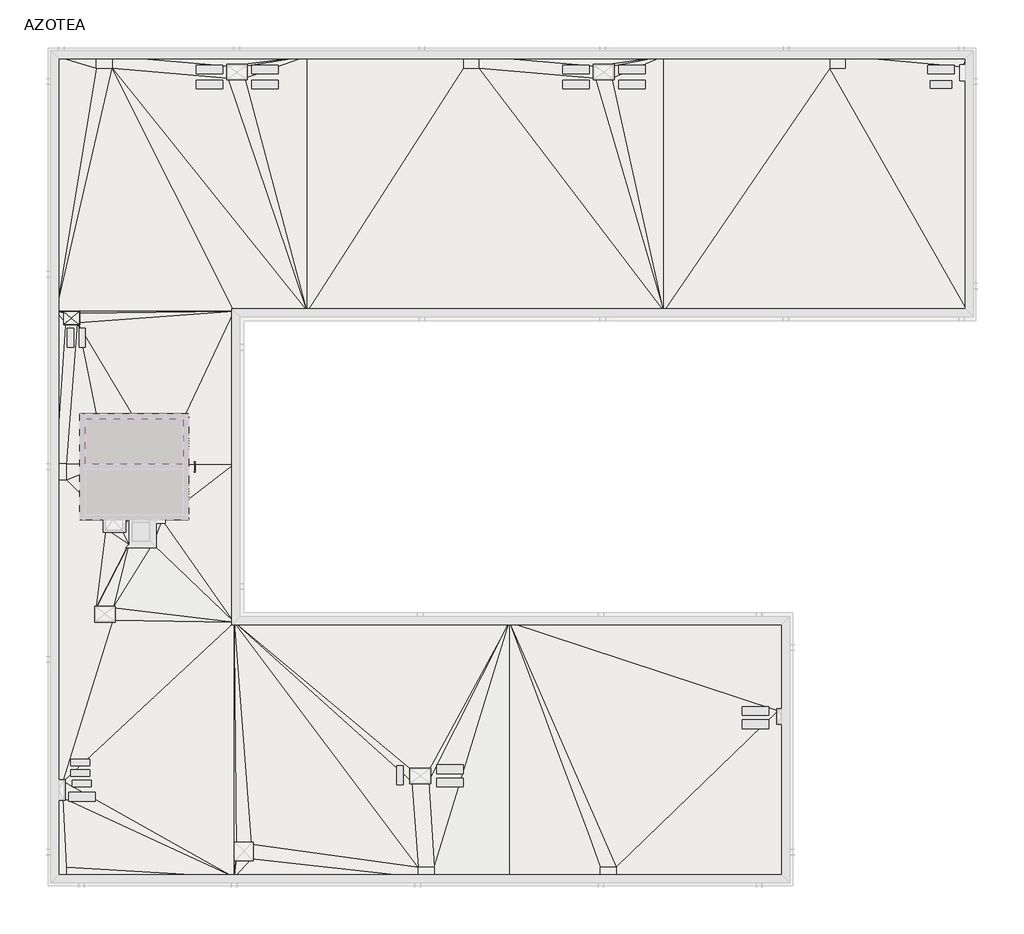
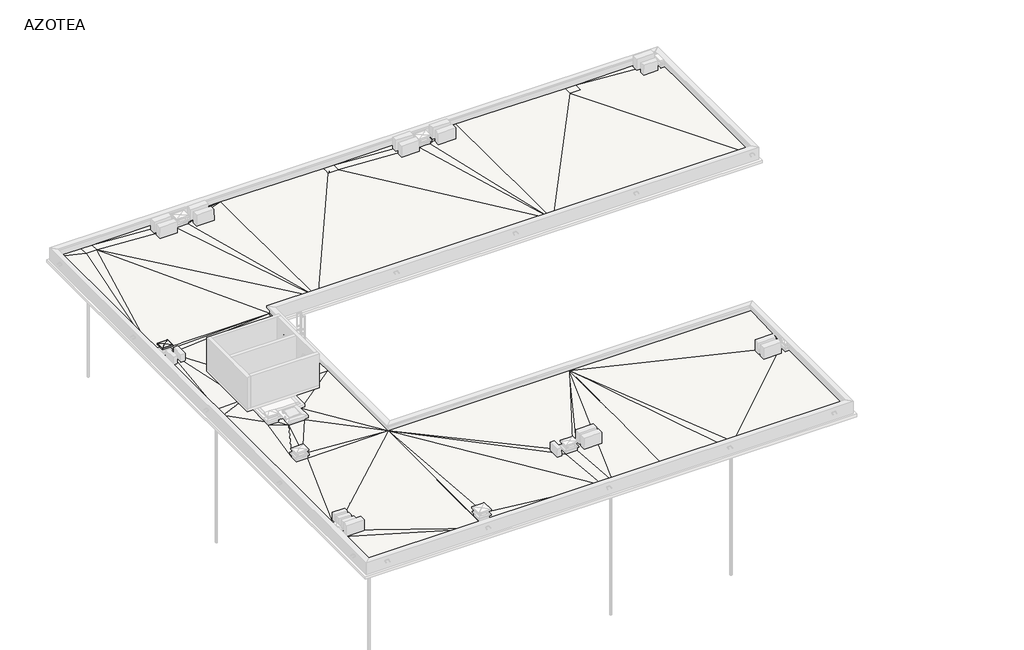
# One storey, part 3 of 6: 3 slabs, 1 proxy.
"""IFC4 building model written with IfcOpenShell, lengths in millimetres."""

from ifc_helpers import new_model, si_unit, frame, origin, place, context, project, spatial, faceted_brep, element, save
from ifc_brep_helpers import plane_surface, spline_surface, advanced_brep

model = new_model("IFC4")

# Units and contexts
model_context = context("Model", 3, world=origin())
ifc_project = project(units=[si_unit("LENGTHUNIT", "METRE", prefix="MILLI")], contexts=[model_context])

# Site, building, storey
site = spatial("IfcSite", under=ifc_project)
building = spatial("IfcBuilding", under=site)
storey = spatial("IfcBuildingStorey", under=building, Name="AZOTEA", Elevation=6570.0)

# Proxy
placement = place(None, origin())
element("IfcBuildingElementProxy", 1, Name="Goterón", ObjectType="Goterón", at=placement, inside=storey, context=model_context, shape_type="Brep", body=[
    faceted_brep([(4258.7173693, 21810.2304035, 7340.0), (4268.7173693, 21820.2304035, 7340.0), (3668.7173693, 21820.2304035, 7340.0), (3678.7173693, 21810.2304035, 7340.0), (3678.7173693, 21810.2304035, 7270.0), (3678.7173693, 21810.2304035, 7260.0), (4258.7173693, 21810.2304035, 7260.0), (4258.7173693, 21810.2304035, 7270.0), (4268.7173693, 21820.2304035, 7260.0), (3668.7173693, 21820.2304035, 7260.0), (3668.7173693, 21320.2304035, 7340.0), (3678.7173693, 21330.2304035, 7340.0), (3678.7173693, 21330.2304035, 7270.0), (3678.7173693, 21330.2304035, 7260.0), (3668.7173693, 21320.2304035, 7260.0), (4268.7173693, 21320.2304035, 7340.0), (4258.7173693, 21330.2304035, 7340.0), (4258.7173693, 21330.2304035, 7270.0), (4258.7173693, 21330.2304035, 7260.0), (4268.7173693, 21320.2304035, 7260.0)], [[[0, 1, 2, 3]], [[0, 3, 4, 5, 6, 7]], [[8, 6, 5, 9]], [[1, 8, 9, 2]], [[3, 2, 10, 11]], [[3, 11, 12, 13, 5, 4]], [[9, 5, 13, 14]], [[2, 9, 14, 10]], [[11, 10, 15, 16]], [[11, 16, 17, 18, 13, 12]], [[14, 13, 18, 19]], [[10, 14, 19, 15]], [[1, 0, 16, 15]], [[16, 0, 7, 6, 18, 17]], [[6, 8, 19, 18]], [[8, 1, 15, 19]]]),
])

# Slabs
element("IfcSlab", 2, ObjectType="CUBIERTA SALIDAS AZOTEA", at=placement, inside=storey, context=model_context, shape_type="Brep", body=[
    faceted_brep([(4258.7173693, 21810.2304035, 7270.0), (4258.7173693, 21330.2304035, 7270.0), (3678.7173693, 21330.2304035, 7270.0), (3678.7173693, 21810.2304035, 7270.0), (4258.7173693, 21810.2304035, 7340.0), (4258.7173693, 21330.2304035, 7340.0), (3678.7173693, 21330.2304035, 7340.0), (3678.7173693, 21810.2304035, 7340.0), (3960.8540496, 21563.0784627, 7351.1134235)], [[[0, 1, 2, 3]], [[1, 0, 4, 5]], [[2, 1, 5, 6]], [[3, 2, 6, 7]], [[0, 3, 7, 4]], [[7, 6, 8]], [[5, 4, 8]], [[6, 5, 8]], [[7, 8, 4]]]),
])
element("IfcSlab", 3, ObjectType="Alisado AyP con hidrófugo", at=placement, inside=storey, context=model_context, shape_type="Brep", body=[
    faceted_brep([(8174.4126343, 17770.2304035, 7910.0), (8174.4126343, 16070.2304035, 7910.0), (4474.4126343, 16070.2304035, 7910.0), (4474.4126343, 17770.2304035, 7910.0), (8174.4126343, 17770.2304035, 8060.0), (8174.4126343, 16070.2304035, 8060.0), (4474.4126343, 16070.2304035, 8060.0), (4474.4126343, 17770.2304035, 8060.0), (6324.4126343, 16920.2304035, 7960.0)], [[[0, 1, 2, 3]], [[1, 0, 4, 5]], [[2, 1, 5, 6]], [[3, 2, 6, 7]], [[0, 3, 7, 4]], [[7, 6, 8]], [[5, 4, 8]], [[6, 5, 8]], [[7, 8, 4]]]),
])
element("IfcSlab", 4, ObjectType="C13 CUBIERTA VERDE", at=placement, inside=storey, context=model_context, shape_type="AdvancedBrep", body=[
    advanced_brep(
    [(3388.7173693, 31420.2304035, 6570.0), (37688.7173693, 31420.2304035, 6570.0), (37688.7173693, 31020.2304035, 6570.0), (37471.0173693, 31020.2304035, 6570.0), (37471.0173693, 30580.2304035, 6570.0), (37688.7173693, 30580.2304035, 6570.0), (37688.7173693, 21820.2304035, 6570.0), (10088.7173693, 21820.2304035, 6570.0), (10088.7173693, 10120.2304035, 6570.0), (30788.7173693, 10120.2304035, 6570.0), (30788.7173693, 6790.2304035, 6570.0), (30566.2173693, 6790.2304035, 6570.0), (30566.2173693, 6350.2304035, 6570.0), (30788.7173693, 6350.2304035, 6570.0), (30788.7173693, 5880.5756615, 6570.0), (30788.7173693, 520.2304035, 6570.0), (3388.7173693, 520.2304035, 6570.0), (3388.7173693, 3491.2570664, 6570.0), (3658.7173693, 3491.2570664, 6570.0), (3658.7173693, 4131.2570664, 6570.0), (3388.7173693, 4131.2570664, 6570.0), (5268.7173694, 16070.2304035, 6570.0), (5268.7173694, 13970.2304035, 6570.0), (5268.7173694, 13620.2304035, 6570.0), (5838.7173694, 13620.2304035, 6570.0), (5838.7173694, 13970.2304035, 6570.0), (6124.4126343, 13970.2304035, 6570.0), (6124.4126343, 13050.2304035, 6570.0), (7024.4126343, 13050.2304035, 6570.0), (7024.4126343, 13970.2304035, 6570.0), (7368.7173693, 13970.2304035, 6570.0), (7368.7173693, 16070.2304035, 6570.0), (10508.7173694, 31040.2304035, 6570.0), (9868.7173694, 31040.2304035, 6570.0), (9868.7173694, 30600.2304035, 6570.0), (10508.7173694, 30600.2304035, 6570.0), (24308.7173694, 31040.2304035, 6570.0), (23668.7173693, 31040.2304035, 6570.0), (23668.7173693, 30600.2304035, 6570.0), (24308.7173694, 30600.2304035, 6570.0), (10168.7173694, 1765.2304035, 6570.0), (10168.7173694, 1225.2304035, 6570.0), (10721.2173694, 1225.2304035, 6570.0), (10721.2173694, 1765.2304035, 6570.0), (16768.7173694, 4560.2304035, 6570.0), (16768.7173694, 4120.2304035, 6570.0), (17408.7173694, 4120.2304035, 6570.0), (17408.7173694, 4560.2304035, 6570.0), (4898.7212045, 10200.2304035, 6570.0), (5538.7212045, 10200.2304035, 6570.0), (5538.7212045, 10660.2304035, 6570.0), (4898.7212045, 10660.2304035, 6570.0), (4188.7173693, 21740.2304035, 6570.0), (3748.7173693, 21740.2304035, 6570.0), (3748.7173693, 21400.2304035, 6570.0), (4188.7173693, 21400.2304035, 6570.0), (3388.7173693, 31420.2304035, 6820.0), (4891.454197, 31420.2304035, 6790.0), (5491.454197, 31420.2304035, 6790.0), (12834.0232184, 31420.2304035, 6840.0), (18695.2178789, 31420.2304035, 6790.0), (19295.2178789, 31420.2304035, 6790.0), (26253.1413276, 31420.2304035, 6840.0), (32486.4546493, 31420.2304035, 6790.0), (33086.4546493, 31420.2304035, 6790.0), (37688.7173693, 31420.2304035, 6840.0), (37688.7173693, 31020.2304035, 6790.0), (37688.7173693, 21820.2304035, 6790.0), (26253.1413276, 21820.2304035, 6910.0), (12834.0232184, 21820.2304035, 6910.0), (10088.7173693, 21820.2304035, 6910.0), (10088.7173693, 16070.2432952, 6910.0), (10088.7173693, 10120.2304035, 6910.0), (20438.7173693, 10120.2304035, 6910.0), (30788.7173693, 10120.2304035, 6910.0), (30788.7173693, 6790.2304035, 6790.0), (30788.7173693, 520.2304035, 6790.0), (24468.7173693, 520.2304035, 6790.0), (23868.7173693, 520.2304035, 6790.0), (20438.7173693, 520.2304035, 6840.0), (17608.7173693, 520.2304035, 6790.0), (17008.7173693, 520.2304035, 6790.0), (10088.7173693, 520.2304035, 6840.0), (3778.7173693, 520.2304035, 6790.0), (3388.7173693, 520.2304035, 6790.0), (3388.7173693, 4131.2570664, 6790.0), (3388.7173693, 15478.0786724, 6790.0), (3388.7173693, 16078.0786724, 6790.0), (3388.7173693, 21820.2304035, 6850.0), (30566.2173693, 6790.2304035, 6790.0), (5491.454197, 30970.2304035, 6790.0), (7368.7173693, 13970.2304035, 6870.0), (5268.7173694, 16070.2304035, 6850.0), (5268.7173694, 13970.2304035, 6790.0), (5838.7173694, 13970.2304035, 6790.0), (6124.4126343, 13970.2304035, 6870.0), (6124.4126343, 13050.2304035, 6840.0), (7024.4126343, 13050.2304035, 6850.0), (7024.4126343, 13970.2304035, 6910.0), (7368.7173693, 16070.2304035, 6910.0), (5538.7212045, 10660.2304035, 6790.0), (5838.7173694, 13620.2304035, 6790.0), (24468.7173693, 910.2304035, 6790.0), (23868.7173693, 910.2304035, 6790.0), (17608.7173693, 910.2304035, 6790.0), (17008.7173693, 910.2304035, 6790.0), (16768.7173694, 4120.2304035, 6790.0), (37471.0173693, 31020.2304035, 6790.0), (32486.4546493, 30970.2304035, 6790.0), (33086.4546493, 30970.2304035, 6790.0), (18695.2178789, 30970.2304035, 6790.0), (19295.2178789, 30970.2304035, 6790.0), (3788.7173693, 16078.0786724, 6790.0), (3788.7173693, 15478.0786724, 6790.0), (24308.7173694, 30600.2304035, 6830.0), (10508.7173694, 30600.2304035, 6830.0), (4891.454197, 30970.2304035, 6790.0), (3778.7173693, 910.2304035, 6790.0), (10168.7173694, 1765.2304035, 6790.0), (10508.7173694, 31040.2304035, 6830.0), (9868.7173694, 31040.2304035, 6820.0), (9868.7173694, 30600.2304035, 6820.0), (24308.7173694, 31040.2304035, 6830.0), (23668.7173693, 31040.2304035, 6820.0), (23668.7173693, 30600.2304035, 6820.0), (4188.7173693, 21740.2304035, 6790.0), (10168.7173694, 1225.2304035, 6790.0), (10721.2173694, 1225.2304035, 6790.0), (10721.2173694, 1765.2304035, 6790.0), (5268.7173694, 13620.2304035, 6790.0), (4898.7212045, 10660.2304035, 6790.0), (30788.7173693, 5880.5756615, 6790.0), (16768.7173694, 4560.2304035, 6790.0), (17408.7173694, 4120.2304035, 6790.0), (17408.7173694, 4560.2304035, 6790.0), (4898.7212045, 10200.2304035, 6790.0), (5538.7212045, 10200.2304035, 6790.0), (3748.7173693, 21740.2304035, 6790.0), (3748.7173693, 21400.2304035, 6790.0), (4188.7173693, 21400.2304035, 6790.0), (3658.7173693, 4131.2570664, 6790.0), (3658.7173693, 3491.2570664, 6790.0), (30788.7173693, 6350.2304035, 6790.0), (30566.2173693, 6350.2304035, 6790.0), (37471.0173693, 30580.2304035, 6790.0), (37688.7173693, 30580.2304035, 6790.0), (3388.7173693, 3491.2570664, 6790.0)],
    [
        (0, 1),
        (1, 2),
        (2, 3),
        (3, 4),
        (4, 5),
        (5, 6),
        (6, 7),
        (7, 8),
        (8, 9),
        (9, 10),
        (10, 11),
        (11, 12),
        (12, 13),
        (13, 14),
        (14, 15),
        (15, 16),
        (16, 17),
        (17, 18),
        (18, 19),
        (19, 20),
        (20, 0),
        (21, 22),
        (22, 23),
        (23, 24),
        (24, 25),
        (25, 26),
        (26, 27),
        (27, 28),
        (28, 29),
        (29, 30),
        (30, 31),
        (31, 21),
        (32, 33),
        (33, 34),
        (34, 35),
        (35, 32),
        (36, 37),
        (37, 38),
        (38, 39),
        (39, 36),
        (40, 41),
        (41, 42),
        (42, 43),
        (43, 40),
        (44, 45),
        (45, 46),
        (46, 47),
        (47, 44),
        (48, 49),
        (49, 50),
        (50, 51),
        (51, 48),
        (52, 53),
        (53, 54),
        (54, 55),
        (55, 52),
        (0, 56),
        (56, 57),
        (57, 58),
        (58, 59),
        (59, 60),
        (60, 61),
        (61, 62),
        (62, 63),
        (63, 64),
        (64, 65),
        (65, 1),
        (65, 66),
        (66, 2),
        (6, 67),
        (67, 68),
        (68, 69),
        (69, 70),
        (70, 7),
        (70, 71),
        (71, 72),
        (72, 8),
        (72, 73),
        (73, 74),
        (74, 9),
        (74, 75),
        (75, 10),
        (15, 76),
        (76, 77),
        (77, 78),
        (78, 79),
        (79, 80),
        (80, 81),
        (81, 82),
        (82, 83),
        (83, 84),
        (84, 16),
        (20, 85),
        (85, 86),
        (86, 87),
        (87, 88),
        (88, 56),
        (73, 89),
        (89, 75),
        (69, 90),
        (90, 70),
        (71, 91),
        (91, 72),
        (21, 92),
        (92, 93),
        (93, 22),
        (25, 94),
        (94, 95),
        (95, 26),
        (95, 96),
        (96, 27),
        (96, 97),
        (97, 28),
        (97, 98),
        (98, 29),
        (98, 91),
        (91, 30),
        (91, 99),
        (99, 31),
        (99, 92),
        (72, 97),
        (97, 100),
        (100, 72),
        (97, 91),
        (95, 101),
        (101, 96),
        (70, 99),
        (99, 71),
        (77, 102),
        (102, 103),
        (103, 78),
        (80, 104),
        (104, 105),
        (105, 81),
        (73, 104),
        (79, 73),
        (72, 105),
        (105, 106),
        (106, 72),
        (64, 107),
        (107, 65),
        (68, 108),
        (108, 63),
        (62, 68),
        (109, 64),
        (108, 109),
        (69, 110),
        (110, 60),
        (59, 69),
        (111, 61),
        (110, 111),
        (90, 88),
        (88, 70),
        (68, 111),
        (92, 112),
        (112, 113),
        (113, 92),
        (112, 87),
        (86, 113),
        (62, 114),
        (114, 68),
        (59, 115),
        (115, 69),
        (90, 58),
        (57, 116),
        (116, 90),
        (56, 116),
        (82, 117),
        (117, 83),
        (72, 82),
        (82, 118),
        (118, 72),
        (103, 73),
        (32, 119),
        (119, 120),
        (120, 33),
        (120, 121),
        (121, 34),
        (121, 115),
        (115, 35),
        (115, 119),
        (36, 122),
        (122, 123),
        (123, 37),
        (123, 124),
        (124, 38),
        (124, 114),
        (114, 39),
        (114, 122),
        (90, 121),
        (120, 58),
        (121, 69),
        (120, 59),
        (59, 119),
        (68, 124),
        (124, 111),
        (123, 61),
        (123, 62),
        (62, 122),
        (88, 116),
        (88, 125),
        (125, 70),
        (40, 118),
        (118, 126),
        (126, 41),
        (126, 127),
        (127, 42),
        (127, 128),
        (128, 43),
        (128, 118),
        (82, 126),
        (128, 72),
        (82, 127),
        (105, 128),
        (127, 81),
        (93, 129),
        (129, 23),
        (129, 101),
        (101, 24),
        (101, 94),
        (96, 129),
        (129, 130),
        (130, 96),
        (113, 93),
        (14, 131),
        (131, 76),
        (44, 132),
        (132, 106),
        (106, 45),
        (106, 133),
        (133, 46),
        (133, 134),
        (134, 47),
        (134, 132),
        (48, 135),
        (135, 136),
        (136, 49),
        (136, 100),
        (100, 50),
        (100, 130),
        (130, 51),
        (130, 135),
        (52, 125),
        (125, 137),
        (137, 53),
        (137, 138),
        (138, 54),
        (138, 139),
        (139, 55),
        (139, 125),
        (72, 136),
        (136, 140),
        (140, 72),
        (100, 96),
        (82, 141),
        (141, 117),
        (92, 139),
        (139, 112),
        (138, 87),
        (88, 138),
        (137, 88),
        (139, 70),
        (139, 99),
        (104, 133),
        (132, 72),
        (73, 133),
        (134, 73),
        (131, 142),
        (142, 143),
        (143, 89),
        (89, 102),
        (102, 73),
        (66, 107),
        (107, 3),
        (107, 144),
        (144, 4),
        (144, 145),
        (145, 5),
        (145, 67),
        (108, 67),
        (84, 146),
        (146, 17),
        (141, 146),
        (85, 140),
        (141, 18),
        (141, 140),
        (140, 19),
        (140, 82),
        (13, 142),
        (89, 11),
        (143, 12),
    ],
    [
        plane_surface(frame((37488.7173693, 31420.2304035, 6570.0), z_axis=(0.0, 0.0, -1.0), x_axis=(1.0, 0.0, 0.0))),
        plane_surface(frame((3388.7173693, 31420.2304035, 6570.0), z_axis=(0.0, 1.0, 0.0), x_axis=(0.0, 0.0, 1.0))),
        plane_surface(frame((37688.7173693, 31420.2304035, 6570.0), z_axis=(1.0, 0.0, 0.0), x_axis=(0.0, 0.0, 1.0))),
        plane_surface(frame((37688.7173693, 21820.2304035, 6570.0), z_axis=(0.0, -1.0, 0.0), x_axis=(0.0, 0.0, 1.0))),
        plane_surface(frame((10088.7173693, 21820.2304035, 6570.0), z_axis=(1.0, 0.0, 0.0), x_axis=(0.0, 0.0, 1.0))),
        plane_surface(frame((10088.7173693, 10120.2304035, 6570.0), z_axis=(0.0, 1.0, 0.0), x_axis=(0.0, 0.0, 1.0))),
        plane_surface(frame((30788.7173693, 10120.2304035, 6570.0), z_axis=(1.0, 0.0, 0.0), x_axis=(0.0, 0.0, 1.0))),
        plane_surface(frame((30788.7173693, 520.2304035, 6570.0), z_axis=(0.0, -1.0, 0.0), x_axis=(0.0, 0.0, 1.0))),
        plane_surface(frame((3388.7173693, 4131.2570664, 6570.0), z_axis=(-1.0, 0.0, 0.0), x_axis=(0.0, 0.0, 1.0))),
        plane_surface(frame((28145.5923693, 8455.2304035, 6850.0), z_axis=(0.0, -0.03601266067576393, 0.9993513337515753), x_axis=(-1.0, 0.0, 0.0))),
        plane_surface(frame((9471.3982616, 24870.2304035, 6870.0), z_axis=(0.0, 0.013113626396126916, 0.9999140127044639), x_axis=(1.0, 0.0, 0.0))),
        plane_surface(frame((9182.0507027, 13386.9013674, 6896.6666667), z_axis=(-0.01470429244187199, 0.0, 0.9998918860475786), x_axis=(0.0, 1.0, 0.0))),
        plane_surface(frame((5268.7173694, 16070.2304035, 6570.0), z_axis=(1.0, 0.0, 0.0), x_axis=(0.0, 0.0, 1.0))),
        plane_surface(frame((5838.7173694, 13970.2304035, 6570.0), z_axis=(0.0, 1.0, 0.0), x_axis=(0.0, 0.0, 1.0))),
        plane_surface(frame((6124.4126343, 13970.2304035, 6570.0), z_axis=(1.0, 0.0, 0.0), x_axis=(0.0, 0.0, 1.0))),
        plane_surface(frame((6124.4126343, 13050.2304035, 6570.0), z_axis=(0.0, 1.0, 0.0), x_axis=(0.0, 0.0, 1.0))),
        plane_surface(frame((7024.4126343, 13050.2304035, 6570.0), z_axis=(-1.0, 0.0, 0.0), x_axis=(0.0, 0.0, 1.0))),
        plane_surface(frame((7024.4126343, 13970.2304035, 6570.0), z_axis=(0.0, 1.0, 0.0), x_axis=(0.0, 0.0, 1.0))),
        plane_surface(frame((7368.7173693, 13970.2304035, 6570.0), z_axis=(-1.0, 0.0, 0.0), x_axis=(0.0, 0.0, 1.0))),
        plane_surface(frame((7368.7173693, 16070.2304035, 6570.0), z_axis=(0.0, -1.0, 0.0), x_axis=(0.0, 0.0, 1.0))),
        plane_surface(frame((7550.6170694, 11276.8970701, 6850.0), z_axis=(-0.027325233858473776, -0.008108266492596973, 0.9995937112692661), x_axis=(-0.7226960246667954, 0.6910211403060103, -0.014150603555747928))),
        plane_surface(frame((7139.1808793, 13663.5637368, 6876.6666667), z_axis=(0.11515860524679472, -0.06464617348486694, 0.99124132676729), x_axis=(-0.9933191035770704, 0.0, 0.1153999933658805))),
        plane_surface(frame((8160.615791, 12380.2304035, 6876.6666667), z_axis=(-0.029713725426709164, -0.010608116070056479, 0.9995021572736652), x_axis=(-0.5769955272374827, 0.8167032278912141, -0.008485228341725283))),
        plane_surface(frame((6029.1808793, 13546.8970701, 6833.3333333), z_axis=(-0.23332035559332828, -0.031691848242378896, 0.9718833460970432), x_axis=(0.0, 0.9994687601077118, 0.03259137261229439))),
        plane_surface(frame((9182.0507027, 17986.9013674, 6910.0), z_axis=(0.0, 0.0, 1.0000000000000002), x_axis=(-0.42761323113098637, -0.9039617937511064, 0.0))),
        plane_surface(frame((8275.384036, 15370.2347007, 6896.6666667), z_axis=(9.026153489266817e-08, -0.01904416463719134, 0.9998186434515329), x_axis=(-0.9999999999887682, -4.739590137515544e-06, 0.0))),
        plane_surface(frame((24168.7173693, 715.2304035, 6790.0), z_axis=(0.0, 0.0, 1.0), x_axis=(0.0, 1.0, 0.0))),
        plane_surface(frame((17308.7173693, 715.2304035, 6790.0), z_axis=(0.0, 0.0, 1.0), x_axis=(0.0, 1.0, 0.0))),
        spline_surface(1, 1, [[(17608.7173693, 910.2304035, 6790.0), (20438.7173693, 10120.2304035, 6910.0)], [(17608.7173693, 520.2304035, 6790.0), (20438.7173693, 520.2304035, 6840.0)]], [2, 2], [2, 2], [0.0, 1.0], [0.0, 1.0]),
        plane_surface(frame((14622.0507027, 5050.2304035, 6830.0), z_axis=(0.01925371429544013, 0.0014395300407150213, 0.9998135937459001), x_axis=(0.6006616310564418, -0.7994354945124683, -0.010416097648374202))),
        plane_surface(frame((36082.0631293, 31286.8970701, 6806.6666667), z_axis=(-0.010787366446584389, -0.11824471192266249, 0.9929258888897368), x_axis=(-0.9999409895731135, 0.0, -0.010863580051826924))),
        spline_surface(1, 1, [[(32486.4546493, 30970.2304035, 6790.0), (26253.1413276, 21820.2304035, 6910.0)], [(32486.4546493, 31420.2304035, 6790.0), (26253.1413276, 31420.2304035, 6840.0)]], [2, 2], [2, 2], [0.0, 1.0], [0.0, 1.0]),
        plane_surface(frame((32786.4546493, 31195.2304035, 6790.0), z_axis=(0.0, 0.0, 1.0), x_axis=(0.0, 1.0, 0.0))),
        spline_surface(1, 1, [[(18695.2178789, 30970.2304035, 6790.0), (12834.0232184, 21820.2304035, 6910.0)], [(18695.2178789, 31420.2304035, 6790.0), (12834.0232184, 31420.2304035, 6840.0)]], [2, 2], [2, 2], [0.0, 1.0], [0.0, 1.0]),
        plane_surface(frame((18995.2178789, 31195.2304035, 6790.0), z_axis=(0.0, 0.0, 1.0), x_axis=(0.0, 1.0, 0.0))),
        plane_surface(frame((6322.9629786, 24870.2304035, 6850.0), z_axis=(-0.008954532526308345, 0.008614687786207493, 0.999922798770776), x_axis=(-0.44892123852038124, 0.8934944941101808, -0.011717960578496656))),
        plane_surface(frame((19269.4000759, 26395.2304035, 6850.0), z_axis=(0.0, 0.01311362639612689, 0.9999140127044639), x_axis=(-0.6052666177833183, 0.795954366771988, -0.010438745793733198))),
        plane_surface(frame((4282.0507027, 15875.4625828, 6810.0), z_axis=(-0.04050726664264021, 0.0, 0.9991792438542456), x_axis=(-0.999165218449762, 0.005298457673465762, -0.04050669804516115))),
        plane_surface(frame((3588.7173693, 15778.0786724, 6790.0), z_axis=(0.0, 0.0, 1.0), x_axis=(-1.0, 0.0, 0.0))),
        plane_surface(frame((25605.0000082, 27946.8970701, 6860.0), z_axis=(-0.008217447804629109, 0.0072912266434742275, 0.9999396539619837), x_axis=(0.0, 0.9999734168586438, -0.0072914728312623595))),
        plane_surface(frame((12058.9212687, 27946.8970701, 6860.0), z_axis=(-0.0068715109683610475, 0.007291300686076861, 0.999949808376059), x_axis=(0.0, 0.9999734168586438, -0.0072914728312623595))),
        plane_surface(frame((5191.454197, 31195.2304035, 6790.0), z_axis=(0.0, 0.0, 1.0), x_axis=(0.0, 1.0, 0.0))),
        plane_surface(frame((4390.5419211, 31270.2304035, 6800.0), z_axis=(0.019959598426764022, 0.0, 0.9998007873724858), x_axis=(0.9577950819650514, -0.2868152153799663, -0.019121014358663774))),
        plane_surface(frame((5882.0507027, 650.2304035, 6806.6666667), z_axis=(-0.007923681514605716, 0.0, 0.999968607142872), x_axis=(0.999968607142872, 0.0, 0.007923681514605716))),
        plane_surface(frame((10115.384036, 4135.2304035, 6846.6666667), z_axis=(0.5940406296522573, -0.005865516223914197, 0.8044136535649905), x_axis=(0.0, -0.9999734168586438, -0.007291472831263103))),
        spline_surface(1, 1, [[(20438.7173693, 520.2304035, 6840.0), (20438.7173693, 10120.2304035, 6910.0)], [(23868.7173693, 520.2304035, 6790.0), (23868.7173693, 910.2304035, 6790.0)]], [2, 2], [2, 2], [0.0, 1.0], [0.0, 1.0]),
        plane_surface(frame((10508.7173694, 31040.2304035, 6570.0), z_axis=(0.0, -1.0, 0.0), x_axis=(0.0, 0.0, 1.0))),
        plane_surface(frame((9868.7173694, 31040.2304035, 6570.0), z_axis=(1.0, 0.0, 0.0), x_axis=(0.0, 0.0, 1.0))),
        plane_surface(frame((9868.7173694, 30600.2304035, 6570.0), z_axis=(0.0, 1.0, 0.0), x_axis=(0.0, 0.0, 1.0))),
        plane_surface(frame((10508.7173694, 30600.2304035, 6570.0), z_axis=(-1.0, 0.0, 0.0), x_axis=(0.0, 0.0, 1.0))),
        plane_surface(frame((24308.7173694, 31040.2304035, 6570.0), z_axis=(0.0, -1.0, 0.0), x_axis=(0.0, 0.0, 1.0))),
        plane_surface(frame((23668.7173693, 31040.2304035, 6570.0), z_axis=(1.0, 0.0, 0.0), x_axis=(0.0, 0.0, 1.0))),
        plane_surface(frame((23668.7173693, 30600.2304035, 6570.0), z_axis=(0.0, 1.0, 0.0), x_axis=(0.0, 0.0, 1.0))),
        plane_surface(frame((24308.7173694, 30600.2304035, 6570.0), z_axis=(-1.0, 0.0, 0.0), x_axis=(0.0, 0.0, 1.0))),
        plane_surface(frame((7680.0857832, 31007.7304035, 6805.0), z_axis=(-0.006853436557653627, 0.0, 0.9999765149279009), x_axis=(0.9964233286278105, -0.08422537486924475, 0.006829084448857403))),
        plane_surface(frame((11070.4859857, 27673.5637368, 6853.3333333), z_axis=(-0.01562289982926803, 0.004972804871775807, 0.9998655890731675), x_axis=(-0.2560048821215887, 0.9666353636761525, -0.008807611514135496))),
        plane_surface(frame((9398.0649282, 27796.8970701, 6840.0), z_axis=(-0.00616276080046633, 0.008168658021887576, 0.9999476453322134), x_axis=(-0.3199627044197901, 0.9473803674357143, -0.009711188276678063))),
        plane_surface(frame((9398.0649282, 31293.5637368, 6816.6666667), z_axis=(-0.0068094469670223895, 0.0005067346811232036, 0.9999766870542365), x_axis=(0.9962297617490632, -0.08648493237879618, 0.0068277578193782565))),
        plane_surface(frame((11283.819319, 31020.2304035, 6833.3333333), z_axis=(-0.004300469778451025, 0.0, 0.9999907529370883), x_axis=(-0.9868998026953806, -0.161278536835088, -0.00424417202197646))),
        plane_surface(frame((11070.4859857, 31166.8970701, 6830.0), z_axis=(-0.015585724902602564, 0.06912292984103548, 0.9974863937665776), x_axis=(-0.9918665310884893, -0.12710637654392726, -0.006689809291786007))),
        plane_surface(frame((23072.3588586, 27796.8970701, 6840.0), z_axis=(-0.006144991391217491, 0.008441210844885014, 0.9999454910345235), x_axis=(-0.2823609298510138, 0.9592578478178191, -0.009832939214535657))),
        plane_surface(frame((21481.9676241, 31007.7304035, 6805.0), z_axis=(-0.006859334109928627, 0.0, 0.9999764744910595), x_axis=(0.9964172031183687, -0.0842973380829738, 0.006834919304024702))),
        plane_surface(frame((23072.3588586, 31293.5637368, 6816.6666667), z_axis=(-0.007185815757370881, -0.0037582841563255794, 0.9999671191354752), x_axis=(0.9962233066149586, -0.08655879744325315, 0.006833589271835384))),
        plane_surface(frame((24956.8586888, 31020.2304035, 6833.3333333), z_axis=(-0.00514284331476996, 0.0, 0.9999867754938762), x_axis=(-0.9814211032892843, -0.191799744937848, -0.0050473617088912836))),
        plane_surface(frame((24743.5253555, 31166.8970701, 6830.0), z_axis=(-0.015600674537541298, 0.053552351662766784, 0.998443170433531), x_axis=(-0.9893335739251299, -0.14546636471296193, -0.007656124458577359))),
        plane_surface(frame((24743.5253555, 27673.5637368, 6853.3333333), z_axis=(-0.015622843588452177, 0.005650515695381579, 0.9998619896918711), x_axis=(-0.21621322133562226, 0.9763056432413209, -0.008895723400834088))),
        plane_surface(frame((3889.6296452, 28070.2304035, 6820.0), z_axis=(0.02089470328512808, 0.0031243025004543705, 0.9997768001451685), x_axis=(0.0, -0.9999951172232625, 0.0031249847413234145))),
        plane_surface(frame((4590.5419211, 27920.2304035, 6810.0), z_axis=(0.0, 0.006557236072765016, 0.9999785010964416), x_axis=(-1.0, 0.0, 0.0))),
        plane_surface(frame((5888.7173693, 21793.5637368, 6850.0), z_axis=(-0.0068584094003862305, -0.6429758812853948, 0.7658557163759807), x_axis=(-0.9999599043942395, 0.0, -0.008954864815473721))),
        plane_surface(frame((10168.7173694, 1765.2304035, 6570.0), z_axis=(1.0, 0.0, 0.0), x_axis=(0.0, 0.0, 1.0))),
        plane_surface(frame((10168.7173694, 1225.2304035, 6570.0), z_axis=(0.0, 1.0, 0.0), x_axis=(0.0, 0.0, 1.0))),
        plane_surface(frame((10721.2173694, 1225.2304035, 6570.0), z_axis=(-1.0, 0.0, 0.0), x_axis=(0.0, 0.0, 1.0))),
        plane_surface(frame((10721.2173694, 1765.2304035, 6570.0), z_axis=(0.0, -1.0, 0.0), x_axis=(0.0, 0.0, 1.0))),
        plane_surface(frame((10142.0507027, 1170.2304035, 6806.6666667), z_axis=(0.5299989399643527, 0.0, 0.8479983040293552), x_axis=(0.11247264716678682, 0.9911652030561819, -0.07029540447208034))),
        plane_surface(frame((10326.2173693, 4550.2304035, 6830.0), z_axis=(0.0, -0.0143611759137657, 0.9998968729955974), x_axis=(0.009573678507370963, -0.9998510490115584, -0.01436051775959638))),
        plane_surface(frame((10326.2173693, 990.2304035, 6806.6666667), z_axis=(0.0, 0.07074428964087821, 0.997494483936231), x_axis=(0.6668686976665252, 0.7433081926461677, -0.05271689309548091))),
        plane_surface(frame((13864.9673693, 1105.2304035, 6790.0), z_axis=(0.0, 0.0, 1.0000000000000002), x_axis=(-0.990880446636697, 0.13474398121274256, 0.0))),
        plane_surface(frame((12606.2173693, 755.2304035, 6806.6666667), z_axis=(0.0072102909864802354, 0.06430454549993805, 0.9979042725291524), x_axis=(-0.9937724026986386, 0.11142895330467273, 0.0))),
        plane_surface(frame((12606.2173693, 4265.2304035, 6830.0), z_axis=(-0.0019731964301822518, -0.014510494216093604, 0.9998927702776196), x_axis=(0.07547943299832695, -0.9970445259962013, -0.014320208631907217))),
        plane_surface(frame((5268.7173694, 13970.2304035, 6570.0), z_axis=(1.0, 0.0, 0.0), x_axis=(0.0, 0.0, 1.0))),
        plane_surface(frame((5268.7173694, 13620.2304035, 6570.0), z_axis=(0.0, 1.0, 0.0), x_axis=(0.0, 0.0, 1.0))),
        plane_surface(frame((5838.7173694, 13620.2304035, 6570.0), z_axis=(-1.0, 0.0, 0.0), x_axis=(0.0, 0.0, 1.0))),
        plane_surface(frame((5430.6170694, 12443.5637368, 6806.6666667), z_axis=(-0.05386113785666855, 0.006732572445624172, 0.9985257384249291), x_axis=(-0.8312759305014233, 0.5537336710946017, -0.048573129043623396))),
        plane_surface(frame((5933.9491243, 13853.5637368, 6816.6666667), z_axis=(-0.26964657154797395, 0.0, 0.9629593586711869), x_axis=(-0.9629593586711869, 0.0, -0.26964657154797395))),
        plane_surface(frame((5743.9491243, 13430.2304035, 6806.6666667), z_axis=(0.0, 0.08738374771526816, 0.9961747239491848), x_axis=(-0.44671426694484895, 0.8912542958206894, -0.078180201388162))),
        plane_surface(frame((4775.384036, 15172.8464931, 6810.0), z_axis=(-0.02908485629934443, -0.028547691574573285, 0.99916920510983), x_axis=(-0.9277868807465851, -0.37120986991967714, -0.03761298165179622))),
        plane_surface(frame((30788.7173693, 5880.5756615, 6570.0), z_axis=(1.0, 0.0, 0.0), x_axis=(0.0, 0.0, 1.0))),
        plane_surface(frame((16768.7173694, 4560.2304035, 6570.0), z_axis=(1.0, 0.0, 0.0), x_axis=(0.0, 0.0, 1.0))),
        plane_surface(frame((16768.7173694, 4120.2304035, 6570.0), z_axis=(0.0, 1.0, 0.0), x_axis=(0.0, 0.0, 1.0))),
        plane_surface(frame((17408.7173694, 4120.2304035, 6570.0), z_axis=(-1.0, 0.0, 0.0), x_axis=(0.0, 0.0, 1.0))),
        plane_surface(frame((17408.7173694, 4560.2304035, 6570.0), z_axis=(0.0, -1.0, 0.0), x_axis=(0.0, 0.0, 1.0))),
        plane_surface(frame((4898.7212045, 10200.2304035, 6570.0), z_axis=(0.0, 1.0, 0.0), x_axis=(0.0, 0.0, 1.0))),
        plane_surface(frame((5538.7212045, 10200.2304035, 6570.0), z_axis=(-1.0, 0.0, 0.0), x_axis=(0.0, 0.0, 1.0))),
        plane_surface(frame((5538.7212045, 10660.2304035, 6570.0), z_axis=(0.0, -1.0, 0.0), x_axis=(0.0, 0.0, 1.0))),
        plane_surface(frame((4898.7212045, 10660.2304035, 6570.0), z_axis=(1.0, 0.0, 0.0), x_axis=(0.0, 0.0, 1.0))),
        plane_surface(frame((4188.7173693, 21740.2304035, 6570.0), z_axis=(0.0, -1.0, 0.0), x_axis=(0.0, 0.0, 1.0))),
        plane_surface(frame((3748.7173693, 21740.2304035, 6570.0), z_axis=(1.0, 0.0, 0.0), x_axis=(0.0, 0.0, 1.0))),
        plane_surface(frame((3748.7173693, 21400.2304035, 6570.0), z_axis=(0.0, 1.0, 0.0), x_axis=(0.0, 0.0, 1.0))),
        plane_surface(frame((4188.7173693, 21400.2304035, 6570.0), z_axis=(-1.0, 0.0, 0.0), x_axis=(0.0, 0.0, 1.0))),
        plane_surface(frame((6428.7186477, 8150.5726245, 6830.0), z_axis=(-0.026220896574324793, 0.008122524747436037, 0.9996231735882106), x_axis=(-0.9994980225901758, 0.01757360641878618, -0.026360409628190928))),
        plane_surface(frame((7055.3865928, 10326.8970701, 6830.0), z_axis=(-0.026364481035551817, 0.0, 0.9996523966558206), x_axis=(-0.9926905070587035, 0.1178139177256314, -0.026180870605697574))),
        plane_surface(frame((5520.6183478, 11456.8970701, 6806.6666667), z_axis=(0.0, -0.020915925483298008, 0.9997812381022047), x_axis=(-0.45625246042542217, -0.8896557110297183, -0.018612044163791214))),
        plane_surface(frame((5842.0507027, 1640.5726245, 6806.6666667), z_axis=(-0.007946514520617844, -0.00036945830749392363, 0.9999683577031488), x_axis=(0.9980642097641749, -0.06168701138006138, 0.00790859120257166))),
        plane_surface(frame((6229.1821577, 12253.5637368, 6826.6666667), z_axis=(-0.011108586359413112, -0.018193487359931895, 0.9997727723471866), x_axis=(-0.9999382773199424, 0.0, -0.011110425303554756))),
        plane_surface(frame((4415.384036, 17849.5131598, 6810.0), z_axis=(-0.04049096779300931, 0.003043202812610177, 0.9991752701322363), x_axis=(-0.1985787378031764, 0.980022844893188, -0.011032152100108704))),
        plane_surface(frame((3778.7173693, 18739.154538, 6790.0), z_axis=(0.0, 0.0, 1.0), x_axis=(0.07494619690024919, 0.9971875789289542, 0.0))),
        plane_surface(frame((3628.7173693, 21653.5637368, 6810.0), z_axis=(0.16439898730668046, 0.0, 0.9863939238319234), x_axis=(0.646996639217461, -0.7548294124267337, -0.10783277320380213))),
        plane_surface(frame((3775.384036, 21766.8970701, 6810.0), z_axis=(0.0, -0.5999999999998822, 0.8000000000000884), x_axis=(0.9635179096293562, -0.21411509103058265, -0.16058631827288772))),
        plane_surface(frame((3508.7173693, 19766.1798265, 6810.0), z_axis=(0.15265719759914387, -0.010326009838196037, 0.9882252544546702), x_axis=(0.067487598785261, 0.9977201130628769, 0.0))),
        plane_surface(frame((6155.384036, 21653.5637368, 6830.0), z_axis=(-0.020334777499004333, 0.0, 0.9997932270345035), x_axis=(-0.999701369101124, -0.013555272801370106, -0.02033290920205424))),
        plane_surface(frame((7215.384036, 19763.5637368, 6870.0), z_axis=(-0.021042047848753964, 0.009953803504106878, 0.9997290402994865), x_axis=(-0.9972706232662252, -0.07099214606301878, -0.020283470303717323))),
        plane_surface(frame((5608.7173693, 17846.8970701, 6850.0), z_axis=(-0.02855934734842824, 0.0054653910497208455, 0.9995771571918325), x_axis=(-0.5122659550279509, 0.8586092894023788, -0.019330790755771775))),
        plane_surface(frame((17198.7173694, 2515.2304035, 6790.0), z_axis=(0.0, 0.0, 1.0), x_axis=(-0.062184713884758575, 0.9980646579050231, 0.0))),
        plane_surface(frame((14542.0507027, 6266.8970702, 6830.0), z_axis=(0.01796117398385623, 0.0, 0.999838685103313), x_axis=(0.7438918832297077, -0.6681663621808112, -0.013363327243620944))),
        plane_surface(frame((18485.384036, 5050.2304035, 6830.0), z_axis=(-0.03523241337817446, -0.002195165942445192, 0.9993767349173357), x_axis=(-0.45070875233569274, -0.8924925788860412, -0.017849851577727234))),
        plane_surface(frame((16176.2173694, 7340.2304035, 6850.0), z_axis=(0.0, -0.02157770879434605, 0.9997671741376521), x_axis=(0.768525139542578, -0.6396706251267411, -0.013805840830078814))),
        plane_surface(frame((28607.884036, 3573.5637368, 6790.0), z_axis=(0.0, 0.0, 1.0), x_axis=(1.0, 0.0, 0.0))),
        plane_surface(frame((22925.384036, 3980.2304035, 6830.0), z_axis=(0.0, -0.013028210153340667, 0.9999151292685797), x_axis=(0.34897789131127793, -0.9370514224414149, -0.012209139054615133))),
        plane_surface(frame((25157.884036, 5940.2304035, 6830.0), z_axis=(0.008835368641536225, -0.009162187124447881, 0.9999189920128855), x_axis=(0.4008424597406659, -0.916069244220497, -0.011935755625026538))),
        plane_surface(frame((18418.7173694, 6266.8970702, 6830.0), z_axis=(-0.03957293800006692, 0.0, 0.9992166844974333), x_axis=(-0.4784342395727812, -0.8779189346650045, -0.018947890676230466))),
        plane_surface(frame((37688.7173693, 31020.2304035, 6570.0), z_axis=(0.0, -1.0, 0.0), x_axis=(0.0, 0.0, 1.0))),
        plane_surface(frame((37471.0173693, 31020.2304035, 6570.0), z_axis=(1.0, 0.0, 0.0), x_axis=(0.0, 0.0, 1.0))),
        plane_surface(frame((37471.0173693, 30580.2304035, 6570.0), z_axis=(0.0, 1.0, 0.0), x_axis=(0.0, 0.0, 1.0))),
        plane_surface(frame((37688.7173693, 30580.2304035, 6570.0), z_axis=(1.0, 0.0, 0.0), x_axis=(0.0, 0.0, 1.0))),
        plane_surface(frame((35568.404775, 29623.0875463, 6790.0), z_axis=(0.0, 0.0, 1.0), x_axis=(-1.0, 0.0, 0.0))),
        plane_surface(frame((37616.1507027, 31153.5637368, 6806.6666667), z_axis=(0.0, -0.12403473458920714, 0.9922778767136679), x_axis=(-0.47518109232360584, -0.8730934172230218, -0.10913667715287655))),
        plane_surface(frame((32142.7711154, 24870.2304035, 6830.0), z_axis=(0.010492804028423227, 0.0059657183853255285, 0.99992715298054), x_axis=(0.9999449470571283, 0.0, -0.010492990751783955))),
        plane_surface(frame((3388.7173693, 520.2304035, 6570.0), z_axis=(-1.0, 0.0, 0.0), x_axis=(0.0, 0.0, 1.0))),
        plane_surface(frame((3598.7173693, 1786.6410686, 6790.0), z_axis=(0.0, 0.0, 1.0), x_axis=(0.0, 1.0, 0.0))),
        plane_surface(frame((4455.3853144, 10874.4248328, 6790.0), z_axis=(0.0, 0.0, 1.0), x_axis=(-1.0, 0.0, 0.0))),
        plane_surface(frame((3388.7173693, 3491.2570664, 6570.0), z_axis=(0.0, 1.0, 0.0), x_axis=(0.0, 0.0, 1.0))),
        plane_surface(frame((3658.7173693, 3491.2570664, 6570.0), z_axis=(-1.0, 0.0, 0.0), x_axis=(0.0, 0.0, 1.0))),
        plane_surface(frame((3658.7173693, 4131.2570664, 6570.0), z_axis=(0.0, -1.0, 0.0), x_axis=(0.0, 0.0, 1.0))),
        plane_surface(frame((7945.384036, 4923.9059578, 6846.6666667), z_axis=(-0.011869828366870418, -0.007290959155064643, 0.999902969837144), x_axis=(-0.7316882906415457, -0.6815025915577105, -0.013655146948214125))),
        plane_surface(frame((5802.0507027, 2714.2481788, 6806.6666667), z_axis=(-0.007775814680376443, 0.0, 0.9999697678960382), x_axis=(-0.8718941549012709, 0.489647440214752, -0.006779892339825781))),
        plane_surface(frame((30788.7173693, 6350.2304035, 6570.0), z_axis=(1.0, 0.0, 0.0), x_axis=(0.0, 0.0, 1.0))),
        plane_surface(frame((30788.7173693, 6790.2304035, 6570.0), z_axis=(0.0, -1.0, 0.0), x_axis=(0.0, 0.0, 1.0))),
        plane_surface(frame((30566.2173693, 6790.2304035, 6570.0), z_axis=(1.0, 0.0, 0.0), x_axis=(0.0, 0.0, 1.0))),
        plane_surface(frame((30566.2173693, 6350.2304035, 6570.0), z_axis=(0.0, 1.0, 0.0), x_axis=(0.0, 0.0, 1.0))),
    ],
    [
        (0, [[1, 2, 3, 4, 5, 6, 7, 8, 9, 10, 11, 12, 13, 14, 15, 16, 17, 18, 19, 20, 21], [22, 23, 24, 25, 26, 27, 28, 29, 30, 31, 32], [33, 34, 35, 36], [37, 38, 39, 40], [41, 42, 43, 44], [45, 46, 47, 48], [49, 50, 51, 52], [53, 54, 55, 56]]),
        (1, [[-1, 57, 58, 59, 60, 61, 62, 63, 64, 65, 66, 67]]),
        (2, [[-2, -67, 68, 69]]),
        (3, [[-7, 70, 71, 72, 73, 74]]),
        (4, [[-8, -74, 75, 76, 77]]),
        (5, [[-9, -77, 78, 79, 80]]),
        (6, [[-10, -80, 81, 82]]),
        (7, [[-16, 83, 84, 85, 86, 87, 88, 89, 90, 91, 92]]),
        (8, [[-21, 93, 94, 95, 96, 97, -57]]),
        (9, [[-79, 98, 99, -81]]),
        (10, [[-73, 100, 101]]),
        (11, [[-76, 102, 103]]),
        (12, [[-22, 104, 105, 106]]),
        (13, [[-26, 107, 108, 109]]),
        (14, [[-27, -109, 110, 111]]),
        (15, [[-28, -111, 112, 113]]),
        (16, [[-29, -113, 114, 115]]),
        (17, [[-30, -115, 116, 117]]),
        (18, [[-31, -117, 118, 119]]),
        (19, [[-32, -119, 120, -104]]),
        (20, [[121, 122, 123]]),
        (21, [[-116, -114, 124]]),
        (22, [[-103, -124, -121]]),
        (23, [[-110, 125, 126]]),
        (24, [[127, 128, -75]]),
        (25, [[-128, -118, -102]]),
        (26, [[129, 130, 131, -85]]),
        (27, [[132, 133, 134, -88]]),
        (28, [[135, -132, -87, 136]]),
        (29, [[137, 138, 139]]),
        (30, [[-66, 140, 141]]),
        (31, [[142, 143, -64, 144]]),
        (32, [[145, -65, -143, 146]]),
        (33, [[147, 148, -61, 149]]),
        (34, [[150, -62, -148, 151]]),
        (35, [[-101, 152, 153]]),
        (36, [[154, -151, -147, -72]]),
        (37, [[155, 156, 157]]),
        (38, [[158, -95, 159, -156]]),
        (39, [[-144, 160, 161]]),
        (40, [[-149, 162, 163]]),
        (41, [[164, -59, 165, 166]]),
        (42, [[167, -165, -58]]),
        (43, [[-90, 168, 169]]),
        (44, [[170, 171, 172]]),
        (45, [[-136, -86, -131, 173]]),
        (46, [[-33, 174, 175, 176]]),
        (47, [[-34, -176, 177, 178]]),
        (48, [[-35, -178, 179, 180]]),
        (49, [[-36, -180, 181, -174]]),
        (50, [[-37, 182, 183, 184]]),
        (51, [[-38, -184, 185, 186]]),
        (52, [[-39, -186, 187, 188]]),
        (53, [[-40, -188, 189, -182]]),
        (54, [[190, -177, 191, -164]]),
        (55, [[-163, -179, 192]]),
        (56, [[-192, -190, -100]]),
        (57, [[-191, 193, -60]]),
        (58, [[194, -181, -162]]),
        (59, [[-193, -175, -194]]),
        (60, [[195, 196, -154]]),
        (61, [[-196, -185, 197, -150]]),
        (62, [[-197, 198, -63]]),
        (63, [[199, -189, -160]]),
        (64, [[-198, -183, -199]]),
        (65, [[-161, -187, -195]]),
        (66, [[-97, 200, -167]]),
        (67, [[-166, -200, -152]]),
        (68, [[-153, 201, 202]]),
        (69, [[-41, 203, 204, 205]]),
        (70, [[-42, -205, 206, 207]]),
        (71, [[-43, -207, 208, 209]]),
        (72, [[-44, -209, 210, -203]]),
        (73, [[211, -204, -171]]),
        (74, [[-172, -210, 212]]),
        (75, [[213, -206, -211]]),
        (76, [[214, -208, 215, -134]]),
        (77, [[-215, -213, -89]]),
        (78, [[-212, -214, -137]]),
        (79, [[-23, -106, 216, 217]]),
        (80, [[-24, -217, 218, 219]]),
        (81, [[-25, -219, 220, -107]]),
        (82, [[221, 222, 223]]),
        (83, [[-108, -220, -125]]),
        (84, [[-126, -218, -221]]),
        (85, [[-157, 224, -105]]),
        (86, [[-15, 225, 226, -83]]),
        (87, [[-45, 227, 228, 229]]),
        (88, [[-46, -229, 230, 231]]),
        (89, [[-47, -231, 232, 233]]),
        (90, [[-48, -233, 234, -227]]),
        (91, [[-49, 235, 236, 237]]),
        (92, [[-50, -237, 238, 239]]),
        (93, [[-51, -239, 240, 241]]),
        (94, [[-52, -241, 242, -235]]),
        (95, [[-53, 243, 244, 245]]),
        (96, [[-54, -245, 246, 247]]),
        (97, [[-55, -247, 248, 249]]),
        (98, [[-56, -249, 250, -243]]),
        (99, [[251, 252, 253]]),
        (100, [[-123, -238, -251]]),
        (101, [[-223, -240, 254]]),
        (102, [[-168, 255, 256]]),
        (103, [[-112, -254, -122]]),
        (104, [[257, 258, -155]]),
        (105, [[-258, -248, 259, -158]]),
        (106, [[260, -246, 261]]),
        (107, [[-261, -244, -201]]),
        (108, [[-259, -260, -96]]),
        (109, [[-202, -250, 262]]),
        (110, [[-262, 263, -127]]),
        (111, [[-263, -257, -120]]),
        (112, [[264, -230, -138, -133]]),
        (113, [[-139, -228, 265]]),
        (114, [[266, -264, -135]]),
        (115, [[-265, -234, 267, -78]]),
        (116, [[-84, -226, 268, 269, 270, 271, -129]]),
        (117, [[-173, -130, 272]]),
        (118, [[-272, -271, -98]]),
        (119, [[-267, -232, -266]]),
        (120, [[-3, -69, 273, 274]]),
        (121, [[-4, -274, 275, 276]]),
        (122, [[-5, -276, 277, 278]]),
        (123, [[-6, -278, 279, -70]]),
        (124, [[-146, 280, -279, -277, -275, -140, -145]]),
        (125, [[-141, -273, -68]]),
        (126, [[-71, -280, -142]]),
        (127, [[-17, -92, 281, 282]]),
        (128, [[-169, -256, 283, -281, -91]]),
        (129, [[-159, -94, 284, -252, -236, -242, -222, -216, -224]]),
        (130, [[-18, -282, -283, 285]]),
        (131, [[-19, -285, 286, 287]]),
        (132, [[-20, -287, -284, -93]]),
        (133, [[-253, 288, -170]]),
        (134, [[-288, -286, -255]]),
        (135, [[-14, 289, -268, -225]]),
        (136, [[-11, -82, -99, 290]]),
        (137, [[-12, -290, -270, 291]]),
        (138, [[-13, -291, -269, -289]]),
    ],
),
])

save(model, "model.ifc")
